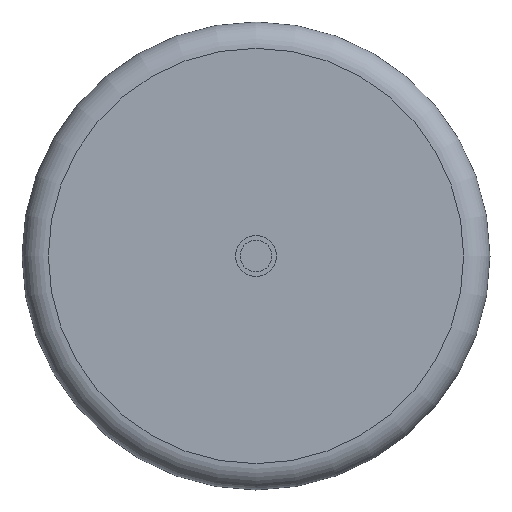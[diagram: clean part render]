
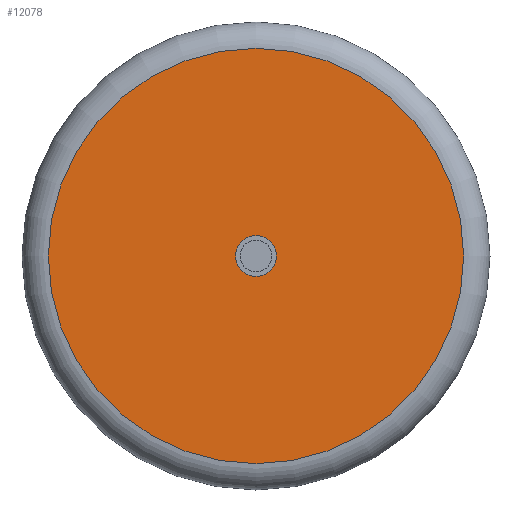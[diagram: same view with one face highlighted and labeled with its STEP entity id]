
A CAD part, left-side view. The second image highlights one B-rep face of the part: STEP entity #12078.
In plain terms, the highlighted planar face has unit normal (-1, 0, 0).
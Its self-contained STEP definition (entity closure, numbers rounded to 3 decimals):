
#892=PLANE('',#13040);
#2858=ORIENTED_EDGE('',*,*,#6823,.F.);
#2859=ORIENTED_EDGE('',*,*,#6821,.T.);
#6821=EDGE_CURVE('',#8769,#8769,#9788,.T.);
#6823=EDGE_CURVE('',#8771,#8771,#9790,.T.);
#8769=VERTEX_POINT('',#17650);
#8771=VERTEX_POINT('',#17657);
#9788=CIRCLE('',#13036,157.5);
#9790=CIRCLE('',#13041,15.5);
#10363=EDGE_LOOP('',(#2858));
#10364=EDGE_LOOP('',(#2859));
#11197=FACE_BOUND('',#10363,.T.);
#11198=FACE_BOUND('',#10364,.T.);
#12078=ADVANCED_FACE('',(#11197,#11198),#892,.T.);
#13036=AXIS2_PLACEMENT_3D('',#17649,#14208,#14209);
#13040=AXIS2_PLACEMENT_3D('',#17655,#14216,#14217);
#13041=AXIS2_PLACEMENT_3D('',#17656,#14218,#14219);
#14208=DIRECTION('',(-1.,0.,0.));
#14209=DIRECTION('',(0.,0.,1.));
#14216=DIRECTION('',(-1.,0.,0.));
#14217=DIRECTION('',(0.,0.,1.));
#14218=DIRECTION('',(-1.,0.,0.));
#14219=DIRECTION('',(0.,-1.,0.));
#17649=CARTESIAN_POINT('',(-67.5,0.,0.));
#17650=CARTESIAN_POINT('',(-67.5,0.,157.5));
#17655=CARTESIAN_POINT('',(-67.5,0.,0.));
#17656=CARTESIAN_POINT('',(-67.5,0.,0.));
#17657=CARTESIAN_POINT('',(-67.5,-15.5,0.));
